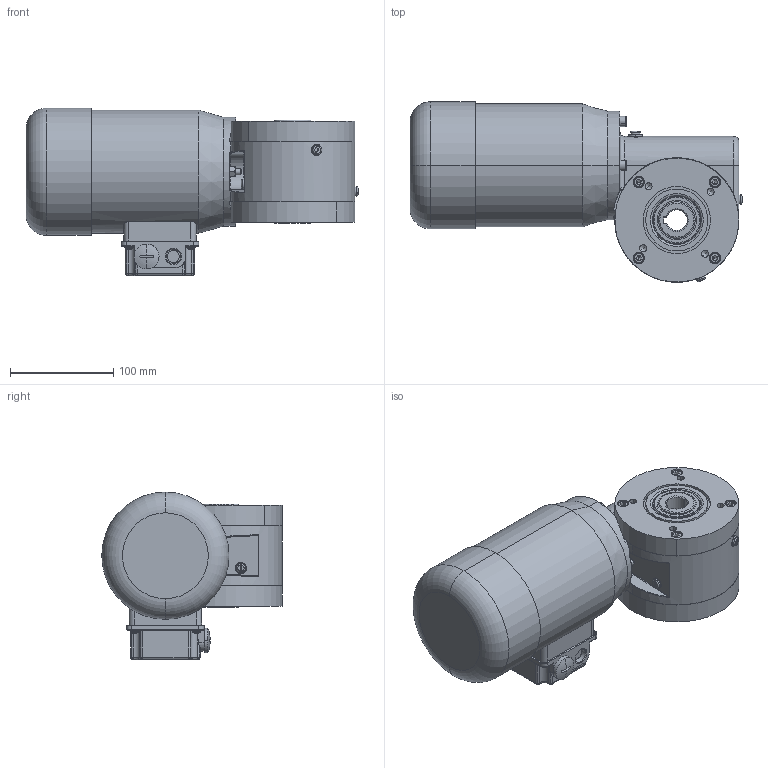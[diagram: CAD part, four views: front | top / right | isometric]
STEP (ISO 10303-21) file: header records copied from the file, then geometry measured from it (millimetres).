
FILE_DESCRIPTION (( 'STEP AP214' ), '1' );
FILE_NAME ('SN8BFH_180W_1400Upm_Drehstrom-Motor_A.STEP', '2021-09-21T06:32:47', ( '' ), ( '' ), 'SwSTEP 2.0', 'SolidWorks 2019', '' );
FILE_SCHEMA (( 'AUTOMOTIVE_DESIGN' ));
Length unit declared in the file: millimetre
Products named in the file (13): SN8BFH_3D_Export; U-Seal Ring Ø5; 08BFH-D-008_3D_Export; socket head cap screw_din_DIN 912 M6 x 20 --- 20C; socket set screw flat point_din_DIN 913 - M6 x 25-C; NBR_WDR_35x47x7; hex nut style 1 gradeab_din_Hexagon Nut ISO 4032 - M6 - D - C; slotted pan head screw_din_DIN EN ISO 1580 - M5 x 6 - 6C; 08B-G-003_3D_Export; Kupferscheibe Ø6x10x1; 08-M-166 I 180W_1400Upm; SN8BFH_180W_1400Upm_Drehstrom-Motor_A; 08FH-W-001_3D_Export
Assembly tree (37 placements, depth 3):
  SN8BFH_180W_1400Upm_Drehstrom-Motor_A
    SN8BFH_3D_Export
      08B-G-003_3D_Export
      08FH-W-001_3D_Export
      08BFH-D-008_3D_Export  x2
      NBR_WDR_35x47x7  x2
      socket head cap screw_din_DIN 912 M6 x 20 --- 20C  x11
      slotted pan head screw_din_DIN EN ISO 1580 - M5 x 6 - 6C  x4
      socket set screw flat point_din_DIN 913 - M6 x 25-C
      hex nut style 1 gradeab_din_Hexagon Nut ISO 4032 - M6 - D - C
      Kupferscheibe Ø6x10x1  x8
      U-Seal Ring Ø5  x4
    08-M-166 I 180W_1400Upm
Bounding box: 321 x 174.5 x 162.2 mm (x, y, z)
Volume: 3527337.8 mm3; surface area: 319230.4 mm2
Topology: 37 solids, 37 shells, 1213 faces, 2843 edges, 1740 vertices
Faces by surface type: cylinder 418, plane 370, cone 197, torus 182, sphere 24, bspline 22
Entity records: 26525 total; most frequent: CARTESIAN_POINT 7456, DIRECTION 4166, ORIENTED_EDGE 3698, EDGE_CURVE 1849, AXIS2_PLACEMENT_3D 1785, VERTEX_POINT 1162, CIRCLE 1005, EDGE_LOOP 849
